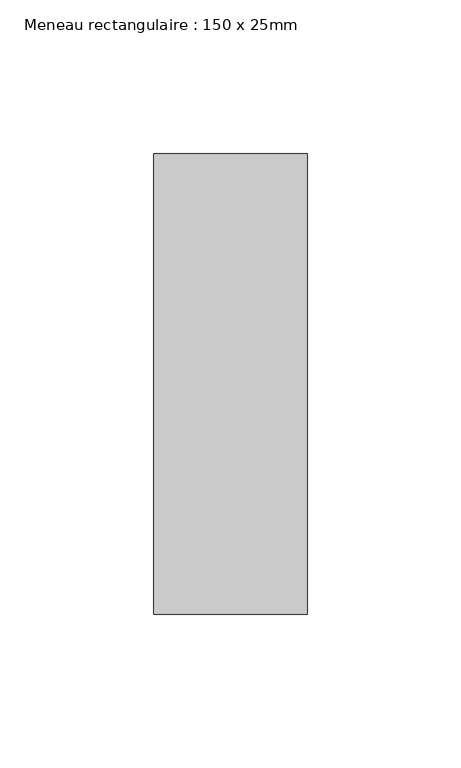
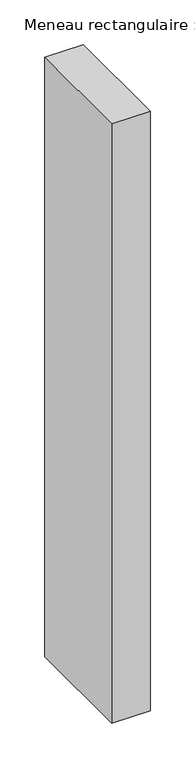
"""IFC4 building model written with IfcOpenShell, lengths in millimetres: member geometry, Meneau rectangulaire : 150 x 25mm."""

import ifcopenshell
import ifcopenshell.guid

model = None  # the IFC model being written
_history = None  # IfcOwnerHistory: only IFC2X3 demands one
_inside = {}  # id of a spatial element -> (the spatial element, [elements in it])
_under = {}  # id of a project, library or spatial element -> (it, [spatial elements below it])
_declared = {}  # id of a project -> (the project, [libraries it declares])
_typed = {}  # id of a type object -> (the type object, [elements of that type])
_made_of = {}  # id of a material, layer set ... -> (it, [elements and type objects made of it])


def new_model(schema):
    """Start an empty IFC model of exactly this schema.

    Asked for "IFC4X3", IfcOpenShell would pick the latest addendum, in which some entities
    have other attributes; the version numbers below select the first issue.
    IFC2X3 requires an IfcOwnerHistory on every rooted entity: one is made here for all.
    """
    global model, _history
    if schema == "IFC4X3":
        model = ifcopenshell.file(schema_version=(4, 3, 0, 0))
    else:
        model = ifcopenshell.file(schema=schema)
    _inside.clear()
    _under.clear()
    _declared.clear()
    _typed.clear()
    _made_of.clear()
    _history = None
    if model.schema == "IFC2X3":
        org = make("IfcOrganization", Name="unknown")
        user = make(
            "IfcPersonAndOrganization",
            ThePerson=make("IfcPerson", FamilyName="unknown"),
            TheOrganization=org,
        )
        app = make(
            "IfcApplication",
            ApplicationDeveloper=org,
            Version="unknown",
            ApplicationFullName="unknown",
            ApplicationIdentifier="unknown",
        )
        _history = make(
            "IfcOwnerHistory",
            OwningUser=user,
            OwningApplication=app,
            ChangeAction="ADDED",
            CreationDate=0,
        )
    return model


def make(cls, **values):
    """One entity of the class cls with the attributes given. An attribute that is None is left unset."""
    return model.create_entity(
        cls, **{name: value for name, value in values.items() if value is not None}
    )


def rooted(cls, **values):
    """An entity with a GlobalId (a new one), such as an element, a storey or a relation."""
    return make(cls, GlobalId=ifcopenshell.guid.new(), OwnerHistory=_history, **values)


def si_unit(unit_type, name, prefix=None):
    """IfcSIUnit, for example si_unit("LENGTHUNIT", "METRE", prefix="MILLI")."""
    return make("IfcSIUnit", UnitType=unit_type, Prefix=prefix, Name=name)


def assignment(units):
    """IfcUnitAssignment: the units of a project."""
    return None if units is None else make("IfcUnitAssignment", Units=units)


def point(xyz):
    """IfcCartesianPoint."""
    return None if xyz is None else make("IfcCartesianPoint", Coordinates=xyz)


def direction(xyz):
    """IfcDirection."""
    return None if xyz is None else make("IfcDirection", DirectionRatios=xyz)


def frame(location, z_axis=None, x_axis=None):
    """IfcAxis2Placement3D, a coordinate frame: its origin and axes. An axis left out is left unset."""
    return make(
        "IfcAxis2Placement3D",
        Location=point(location),
        Axis=direction(z_axis),
        RefDirection=direction(x_axis),
    )


def origin():
    """The frame at (0, 0, 0) with its axes left unset."""
    return frame((0.0, 0.0, 0.0))


def place(relative_to, where):
    """IfcLocalPlacement: puts the frame where relative to a parent placement (None: the world)."""
    return make(
        "IfcLocalPlacement", PlacementRelTo=relative_to, RelativePlacement=where
    )


def context(
    kind, dimensions, precision=None, world=None, true_north=None, identifier=None
):
    """IfcGeometricRepresentationContext, for example the 3D "Model" context."""
    return make(
        "IfcGeometricRepresentationContext",
        ContextIdentifier=identifier,
        ContextType=kind,
        CoordinateSpaceDimension=dimensions,
        Precision=precision,
        WorldCoordinateSystem=world,
        TrueNorth=true_north,
    )


def project(units=None, contexts=None):
    """IfcProject with its units and contexts."""
    return rooted(
        "IfcProject",
        Name="project",
        RepresentationContexts=contexts,
        UnitsInContext=assignment(units),
    )


def spatial(cls, under=None, at=None, **own):
    """A site, building, storey or space (cls), placed at a placement, below another one or the project."""
    s = rooted(cls, ObjectPlacement=at, **own)
    if under is not None:
        _under.setdefault(under.id(), (under, []))[1].append(s)
    return s


def polyline(points):
    """IfcPolyline through the points."""
    return make("IfcPolyline", Points=[point(p) for p in points])


def outline(outer, holes=None, kind="AREA"):
    """IfcArbitraryClosedProfileDef: a profile drawn as a closed curve; with holes, ...WithVoids."""
    if holes is None:
        return make("IfcArbitraryClosedProfileDef", ProfileType=kind, OuterCurve=outer)
    return make(
        "IfcArbitraryProfileDefWithVoids",
        ProfileType=kind,
        OuterCurve=outer,
        InnerCurves=holes,
    )


def extrude(swept, where, along, depth):
    """IfcExtrudedAreaSolid: the profile swept, set in the frame where, extruded along a direction by depth."""
    return make(
        "IfcExtrudedAreaSolid",
        SweptArea=swept,
        Position=where,
        ExtrudedDirection=direction(along),
        Depth=depth,
    )


def shape(context_of_items, identifier, shape_type, items):
    """IfcShapeRepresentation: the items that make up one representation, for example the "Body"."""
    return make(
        "IfcShapeRepresentation",
        ContextOfItems=context_of_items,
        RepresentationIdentifier=identifier,
        RepresentationType=shape_type,
        Items=items,
    )


def source(mapping_origin, context_of_items, identifier, shape_type, items):
    """IfcRepresentationMap: a shape defined once, which mapped items show again and again."""
    return make(
        "IfcRepresentationMap",
        MappingOrigin=mapping_origin,
        MappedRepresentation=shape(context_of_items, identifier, shape_type, items),
    )


def transform(
    local_origin,
    x_axis=None,
    y_axis=None,
    z_axis=None,
    scale=None,
    scale2=None,
    scale3=None,
    uniform=True,
):
    """IfcCartesianTransformationOperator3D, or its non-uniform kind. x_axis, y_axis, z_axis: its Axis1, 2, 3."""
    if uniform:
        return make(
            "IfcCartesianTransformationOperator3D",
            Axis1=direction(x_axis),
            Axis2=direction(y_axis),
            LocalOrigin=point(local_origin),
            Scale=scale,
            Axis3=direction(z_axis),
        )
    return make(
        "IfcCartesianTransformationOperator3DnonUniform",
        Axis1=direction(x_axis),
        Axis2=direction(y_axis),
        LocalOrigin=point(local_origin),
        Scale=scale,
        Axis3=direction(z_axis),
        Scale2=scale2,
        Scale3=scale3,
    )


def mapped(mapping_source, mapping_target):
    """IfcMappedItem: shows the shape of a source again, moved by a transform."""
    return make(
        "IfcMappedItem", MappingSource=mapping_source, MappingTarget=mapping_target
    )


def made_of(thing, what):
    """Note that an element or type object is made of a material, layer set ...; save() writes the relation."""
    if what is not None:
        _made_of.setdefault(what.id(), (what, []))[1].append(thing)
    return thing


def element(
    cls,
    number,
    at=None,
    inside=None,
    cuts=None,
    type_object=None,
    material=None,
    context=None,
    identifier="Body",
    shape_type=None,
    held_by="IfcProductDefinitionShape",
    body=None,
    shapes=None,
    **own,
):
    """One element of the class cls, such as IfcWall. Its Tag is "e" and its number.

    at: its placement. inside: the storey or other place that contains it. cuts: it is an
    opening in that element (IfcRelVoidsElement). A single representation is given by context,
    identifier, shape_type and body (its items); several are given by shapes. held_by: the class
    of the entity that holds the representations. save() writes the other relations.
    """
    e = rooted(cls, Tag="e%d" % number, ObjectPlacement=at, **own)
    if body is not None:
        shapes = [shape(context, identifier, shape_type, body)]
    if shapes is not None:
        e.Representation = make(held_by, Representations=shapes)
    if inside is not None:
        _inside.setdefault(inside.id(), (inside, []))[1].append(e)
    if cuts is not None:
        rooted(
            "IfcRelVoidsElement", RelatingBuildingElement=cuts, RelatedOpeningElement=e
        )
    if type_object is not None:
        _typed.setdefault(type_object.id(), (type_object, []))[1].append(e)
    return made_of(e, material)


def aggregate(whole, parts):
    """IfcRelAggregates: a whole, such as a stair, and the parts it consists of."""
    return rooted("IfcRelAggregates", RelatingObject=whole, RelatedObjects=parts)


def save(model, path):
    """Write the relations noted so far, then the file.

    IfcRelAggregates (storeys below a building ...), IfcRelContainedInSpatialStructure (elements
    in a storey), IfcRelDefinesByType, IfcRelAssociatesMaterial and IfcRelDeclares: one each for
    every whole, place, type object, material and project.
    """
    for whole, parts in _under.values():
        aggregate(whole, parts)
    for where, things in _inside.values():
        rooted(
            "IfcRelContainedInSpatialStructure",
            RelatedElements=things,
            RelatingStructure=where,
        )
    for kind, things in _typed.values():
        rooted("IfcRelDefinesByType", RelatedObjects=things, RelatingType=kind)
    for what, things in _made_of.values():
        rooted("IfcRelAssociatesMaterial", RelatedObjects=things, RelatingMaterial=what)
    for by, libraries in _declared.values():
        rooted("IfcRelDeclares", RelatingContext=by, RelatedDefinitions=libraries)
    model.write(path)


def meneau_rectangulaire_150_x_25mm_05570265(model_context):
    return source(origin(), model_context, "Body", "SweptSolid", [
        extrude(outline(polyline([(25.0, 75.0), (25.0, -75.0), (-25.0, -75.0), (-25.0, 75.0), (25.0, 75.0)])), frame((0.0, 0.0, -820.4922783), z_axis=(0.0, 0.0, 1.0), x_axis=(1.0, 0.0, 0.0)), (0.0, 0.0, 1.0), 820.4922783),
    ])


if __name__ == "__main__":
    model = new_model("IFC4")
    model_context = context("Model", 3, world=origin())
    ifc_project = project(units=[si_unit("LENGTHUNIT", "METRE", prefix="MILLI")], contexts=[model_context])
    site = spatial("IfcSite", under=ifc_project)
    building = spatial("IfcBuilding", under=site)
    placement = place(None, origin())
    meneau_rectangulaire_150_x_25mm_shape = meneau_rectangulaire_150_x_25mm_05570265(model_context)
    element("IfcMember", 1, ObjectType="Meneau rectangulaire : 150 x 25mm", at=placement, inside=building, context=model_context, shape_type="MappedRepresentation", body=[
        mapped(meneau_rectangulaire_150_x_25mm_shape, transform((0.0, 0.0, 0.0), x_axis=(1.0, 0.0, 0.0), y_axis=(0.0, 1.0, 0.0), z_axis=(0.0, 0.0, 1.0))),
    ])
    save(model, "model.ifc")
